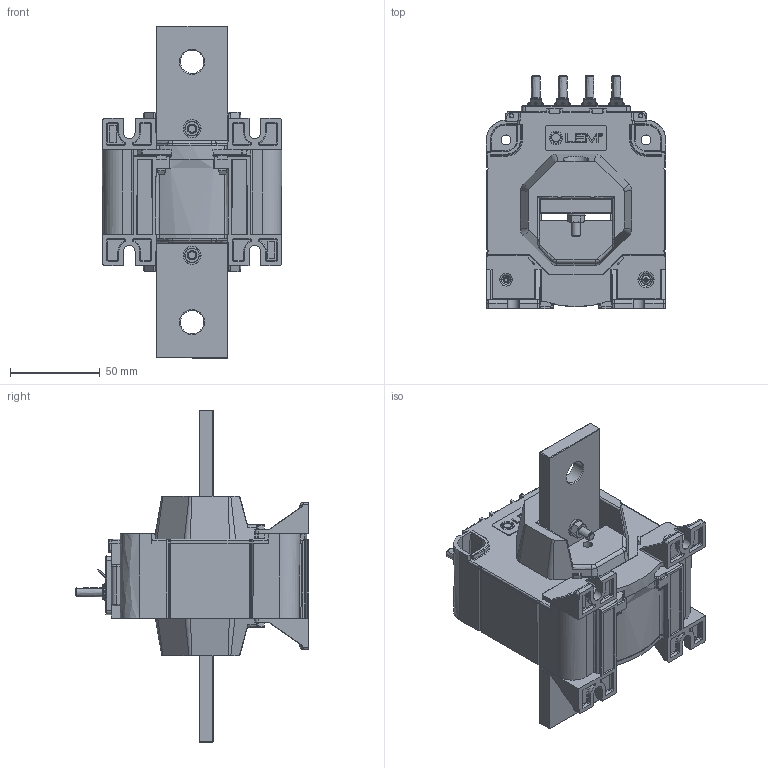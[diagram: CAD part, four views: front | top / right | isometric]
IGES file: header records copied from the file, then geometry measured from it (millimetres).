
Start section: Elysium IGES Interface
Global section: file name: U:\LTC_1000\BLACKBOX\BLACKBOX_LTC1000_TF.igs; native system: CoCreate Modeling 17.00A  17-Jun-2010; preprocessor: CoCreate IGES_3D V2.2; author: Unknown; organization: Unknown; date: 20110506.084531; units: millimetre
Bounding box: 100.14 x 130 x 185 mm (x, y, z)
Volume: 545905.9 mm3; surface area: 111911.4 mm2
Topology: 1 solids, 2 shells, 2739 faces, 7186 edges, 4522 vertices
Faces by surface type: bspline 2739
